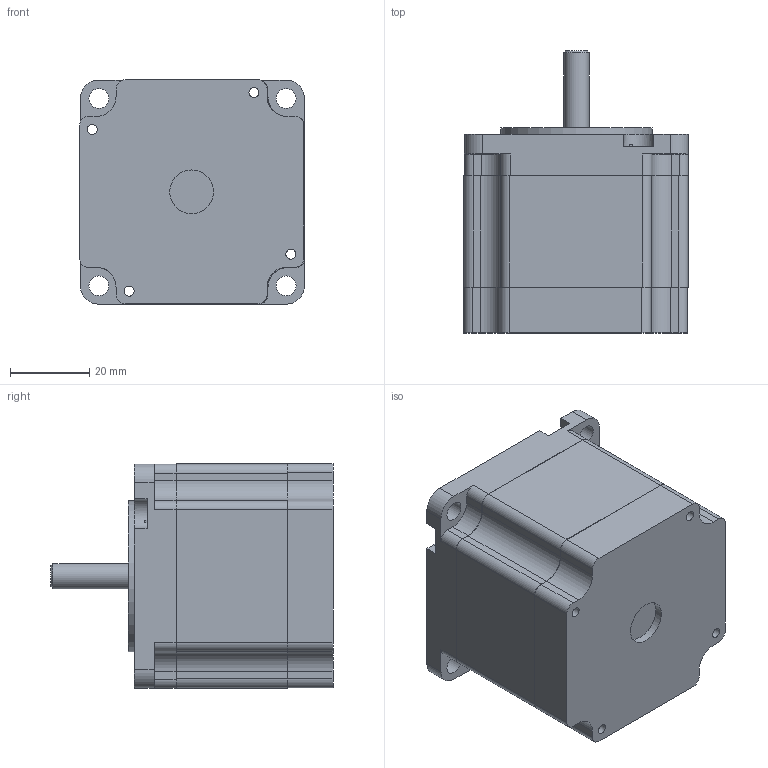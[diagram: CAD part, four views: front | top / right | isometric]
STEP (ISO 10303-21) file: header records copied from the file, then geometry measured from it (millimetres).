
FILE_DESCRIPTION(/* description */ (''),/* implementation_level */ '2;1');
FILE_NAME(/* name */ 'C:\Users\raffaele\Downloads\57SH51.stp',/* time_stamp */ '2020-12-23T10:20:39+01:00',/* author */ ('raffaele'),/* organization */ (''),/* preprocessor_version */ 'ST-DEVELOPER v18',/* originating_system */ 'Autodesk Inventor 2020',/* authorisation */ '');
FILE_SCHEMA (('AUTOMOTIVE_DESIGN { 1 0 10303 214 3 1 1 }'));
Length unit declared in the file: inch
Products named in the file (1): 57SH51
Bounding box: 56.62 x 71 x 56.49 mm (x, y, z)
Surface area: 22257.8 mm2 (no closed solid volume)
Topology: 0 solids, 6 shells, 125 faces, 412 edges, 293 vertices
Faces by surface type: plane 62, cylinder 61, cone 2
Full cylindrical faces by diameter (mm): 2.5 x4, 3.2 x4, 5 x4, 6.35 x1, 10 x1, 11 x1, 33.35 x1, 38.1 x1
Entity records: 4898 total; most frequent: DIRECTION 848, CARTESIAN_POINT 831, ORIENTED_EDGE 769, EDGE_CURVE 412, AXIS2_PLACEMENT_3D 310, VERTEX_POINT 293, LINE 228, VECTOR 228
